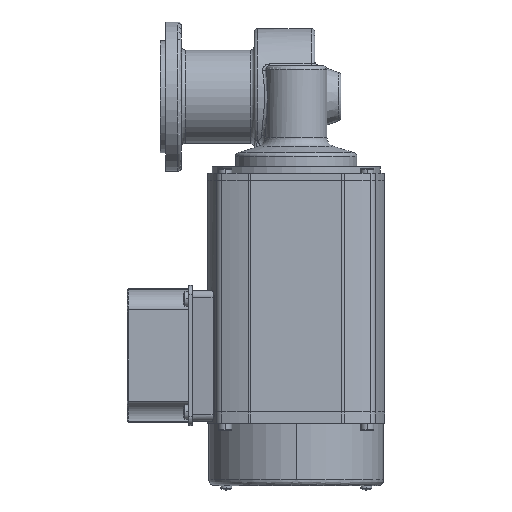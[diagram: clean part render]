
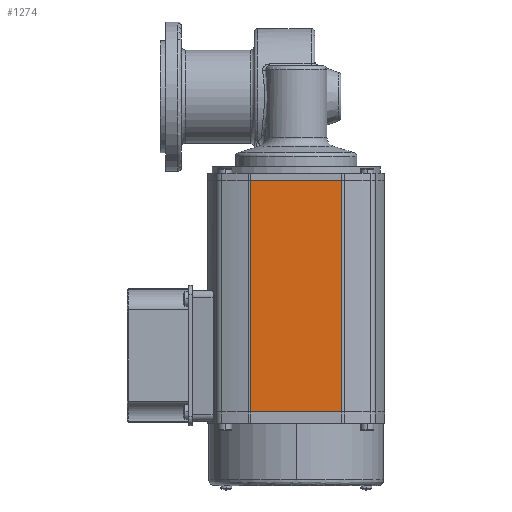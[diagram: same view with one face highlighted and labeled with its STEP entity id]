
A CAD part, front view. The second image highlights one B-rep face of the part: STEP entity #1274.
In plain terms, the highlighted planar face has unit normal (0, -1, 0) as drawn and (0, 1, 0) by its records, which use the part's own axes.
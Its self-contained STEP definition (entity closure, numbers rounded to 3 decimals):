
#209 = VECTOR ( 'NONE', #15851, 1000. ) ;
#951 = LINE ( 'NONE', #28132, #209 ) ;
#1004 = DIRECTION ( 'NONE',  ( 0., 0., 1. ) ) ;
#1026 = DIRECTION ( 'NONE',  ( 0., 1., 0. ) ) ;
#1274 = ADVANCED_FACE ( 'NONE', ( #26466 ), #1344, .T. ) ;
#1344 = PLANE ( 'NONE',  #6675 ) ;
#1464 = VECTOR ( 'NONE', #25636, 1000. ) ;
#1658 = CARTESIAN_POINT ( 'NONE',  ( 158.7, 480.5, 20.91 ) ) ;
#2153 = LINE ( 'NONE', #23317, #23248 ) ;
#5132 = EDGE_CURVE ( 'NONE', #22656, #5481, #2153, .T. ) ;
#5481 = VERTEX_POINT ( 'NONE', #10790 ) ;
#5973 = ORIENTED_EDGE ( 'NONE', *, *, #18204, .T. ) ;
#6157 = DIRECTION ( 'NONE',  ( 0., 0., -1. ) ) ;
#6675 = AXIS2_PLACEMENT_3D ( 'NONE', #1658, #1026, #1004 ) ;
#7198 = CARTESIAN_POINT ( 'NONE',  ( 183.109, 480.5, 20.91 ) ) ;
#7944 = LINE ( 'NONE', #8442, #1464 ) ;
#8442 = CARTESIAN_POINT ( 'NONE',  ( 158.7, 480.5, 20.91 ) ) ;
#10790 = CARTESIAN_POINT ( 'NONE',  ( 183.109, 480.5, -102.89 ) ) ;
#13195 = ORIENTED_EDGE ( 'NONE', *, *, #5132, .T. ) ;
#13685 = CARTESIAN_POINT ( 'NONE',  ( 134.291, 480.5, 20.91 ) ) ;
#14866 = CARTESIAN_POINT ( 'NONE',  ( 134.291, 480.5, -102.89 ) ) ;
#15851 = DIRECTION ( 'NONE',  ( 0., 0., 1. ) ) ;
#17778 = VERTEX_POINT ( 'NONE', #13685 ) ;
#18204 = EDGE_CURVE ( 'NONE', #17778, #22656, #7944, .T. ) ;
#18391 = EDGE_LOOP ( 'NONE', ( #5973, #13195, #21303, #28596 ) ) ;
#19111 = VERTEX_POINT ( 'NONE', #14866 ) ;
#19411 = DIRECTION ( 'NONE',  ( 1., 0., 0. ) ) ;
#21105 = EDGE_CURVE ( 'NONE', #19111, #17778, #951, .T. ) ;
#21303 = ORIENTED_EDGE ( 'NONE', *, *, #30319, .F. ) ;
#22069 = LINE ( 'NONE', #31607, #28565 ) ;
#22656 = VERTEX_POINT ( 'NONE', #7198 ) ;
#23248 = VECTOR ( 'NONE', #6157, 1000. ) ;
#23317 = CARTESIAN_POINT ( 'NONE',  ( 183.109, 480.5, 20.91 ) ) ;
#25636 = DIRECTION ( 'NONE',  ( 1., 0., 0. ) ) ;
#26466 = FACE_OUTER_BOUND ( 'NONE', #18391, .T. ) ;
#28132 = CARTESIAN_POINT ( 'NONE',  ( 134.291, 480.5, 20.91 ) ) ;
#28565 = VECTOR ( 'NONE', #19411, 1000. ) ;
#28596 = ORIENTED_EDGE ( 'NONE', *, *, #21105, .T. ) ;
#30319 = EDGE_CURVE ( 'NONE', #19111, #5481, #22069, .T. ) ;
#31607 = CARTESIAN_POINT ( 'NONE',  ( 157.529, 480.5, -102.89 ) ) ;
